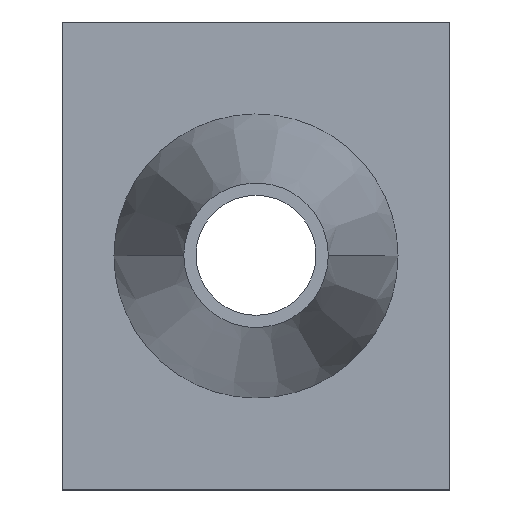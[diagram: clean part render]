
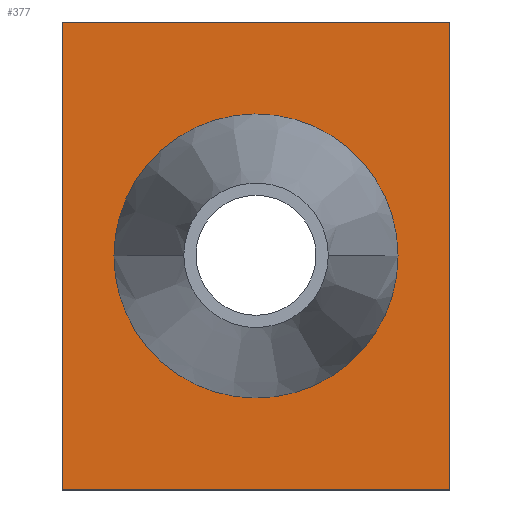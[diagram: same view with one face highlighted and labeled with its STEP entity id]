
A CAD part, top view. The second image highlights one B-rep face of the part: STEP entity #377.
In plain terms, the highlighted planar face has unit normal (0, 0, 1).
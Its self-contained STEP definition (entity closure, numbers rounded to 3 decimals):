
#167=CARTESIAN_POINT('Vertex',(0.,117.,3.)) ;
#174=CARTESIAN_POINT('Vertex',(0.,0.,3.)) ;
#177=CARTESIAN_POINT('Line Origine',(0.,58.5,3.)) ;
#198=CARTESIAN_POINT('Vertex',(97.,117.,3.)) ;
#201=CARTESIAN_POINT('Line Origine',(48.5,117.,3.)) ;
#222=CARTESIAN_POINT('Vertex',(97.,0.,3.)) ;
#225=CARTESIAN_POINT('Line Origine',(97.,58.5,3.)) ;
#242=CARTESIAN_POINT('Line Origine',(48.5,0.,3.)) ;
#324=CARTESIAN_POINT('Axis2P3D Location',(0.,0.,3.)) ;
#336=CARTESIAN_POINT('Control Point',(84.003,58.5,3.)) ;
#337=CARTESIAN_POINT('Control Point',(84.003,64.354,3.)) ;
#338=CARTESIAN_POINT('Control Point',(82.796,70.207,3.)) ;
#339=CARTESIAN_POINT('Control Point',(80.382,75.729,3.)) ;
#340=CARTESIAN_POINT('Control Point',(73.425,85.45,3.)) ;
#341=CARTESIAN_POINT('Control Point',(63.191,91.628,3.)) ;
#342=CARTESIAN_POINT('Control Point',(57.496,93.605,3.)) ;
#343=CARTESIAN_POINT('Control Point',(45.635,95.097,3.)) ;
#344=CARTESIAN_POINT('Control Point',(34.15,91.777,3.)) ;
#345=CARTESIAN_POINT('Control Point',(28.833,88.938,3.)) ;
#346=CARTESIAN_POINT('Control Point',(20.552,81.972,3.)) ;
#347=CARTESIAN_POINT('Control Point',(15.375,72.556,3.)) ;
#348=CARTESIAN_POINT('Control Point',(13.79,67.988,3.)) ;
#349=CARTESIAN_POINT('Control Point',(12.997,63.244,3.)) ;
#350=CARTESIAN_POINT('Control Point',(12.997,58.5,3.)) ;
#351=CARTESIAN_POINT('Vertex',(84.003,58.5,3.)) ;
#353=CARTESIAN_POINT('Vertex',(12.997,58.5,3.)) ;
#357=CARTESIAN_POINT('Control Point',(84.003,58.5,3.)) ;
#358=CARTESIAN_POINT('Control Point',(84.003,52.646,3.)) ;
#359=CARTESIAN_POINT('Control Point',(82.796,46.793,3.)) ;
#360=CARTESIAN_POINT('Control Point',(80.382,41.271,3.)) ;
#361=CARTESIAN_POINT('Control Point',(73.425,31.55,3.)) ;
#362=CARTESIAN_POINT('Control Point',(63.191,25.372,3.)) ;
#363=CARTESIAN_POINT('Control Point',(57.496,23.395,3.)) ;
#364=CARTESIAN_POINT('Control Point',(45.635,21.903,3.)) ;
#365=CARTESIAN_POINT('Control Point',(34.15,25.223,3.)) ;
#366=CARTESIAN_POINT('Control Point',(28.833,28.062,3.)) ;
#367=CARTESIAN_POINT('Control Point',(20.552,35.028,3.)) ;
#368=CARTESIAN_POINT('Control Point',(15.375,44.444,3.)) ;
#369=CARTESIAN_POINT('Control Point',(13.79,49.012,3.)) ;
#370=CARTESIAN_POINT('Control Point',(12.997,53.756,3.)) ;
#371=CARTESIAN_POINT('Control Point',(12.997,58.5,3.)) ;
#178=DIRECTION('Vector Direction',(0.,1.,0.)) ;
#202=DIRECTION('Vector Direction',(-1.,0.,0.)) ;
#226=DIRECTION('Vector Direction',(0.,1.,0.)) ;
#243=DIRECTION('Vector Direction',(1.,0.,0.)) ;
#325=DIRECTION('Axis2P3D Direction',(0.,0.,1.)) ;
#326=DIRECTION('Axis2P3D XDirection',(1.,0.,0.)) ;
#327=AXIS2_PLACEMENT_3D('Plane Axis2P3D',#324,#325,#326) ;
#330=ORIENTED_EDGE('',*,*,#181,.F.) ;
#331=ORIENTED_EDGE('',*,*,#246,.T.) ;
#332=ORIENTED_EDGE('',*,*,#229,.T.) ;
#333=ORIENTED_EDGE('',*,*,#205,.T.) ;
#374=ORIENTED_EDGE('',*,*,#355,.F.) ;
#375=ORIENTED_EDGE('',*,*,#372,.T.) ;
#376=FACE_BOUND('',#373,.T.) ;
#179=VECTOR('Line Direction',#178,1.) ;
#203=VECTOR('Line Direction',#202,1.) ;
#227=VECTOR('Line Direction',#226,1.) ;
#244=VECTOR('Line Direction',#243,1.) ;
#377=ADVANCED_FACE('PartBody',(#334,#376),#328,.T.) ;
#335=B_SPLINE_CURVE_WITH_KNOTS('',5,(#336,#337,#338,#339,#340,#341,#342,#343,#344,#345,#346,#347,#348,#349,#350),.UNSPECIFIED.,.F.,.U.,(6,3,3,3,6),(0.,31.773,63.55,95.327,121.078),.UNSPECIFIED.) ;
#356=B_SPLINE_CURVE_WITH_KNOTS('',5,(#357,#358,#359,#360,#361,#362,#363,#364,#365,#366,#367,#368,#369,#370,#371),.UNSPECIFIED.,.F.,.U.,(6,3,3,3,6),(0.,31.773,63.55,95.327,121.078),.UNSPECIFIED.) ;
#181=EDGE_CURVE('',#175,#168,#180,.T.) ;
#205=EDGE_CURVE('',#199,#168,#204,.T.) ;
#229=EDGE_CURVE('',#223,#199,#228,.T.) ;
#246=EDGE_CURVE('',#175,#223,#245,.T.) ;
#355=EDGE_CURVE('',#352,#354,#335,.T.) ;
#372=EDGE_CURVE('',#352,#354,#356,.T.) ;
#329=EDGE_LOOP('',(#330,#331,#332,#333)) ;
#373=EDGE_LOOP('',(#374,#375)) ;
#334=FACE_OUTER_BOUND('',#329,.T.) ;
#180=LINE('Line',#177,#179) ;
#204=LINE('Line',#201,#203) ;
#228=LINE('Line',#225,#227) ;
#245=LINE('Line',#242,#244) ;
#328=PLANE('',#327) ;
#168=VERTEX_POINT('',#167) ;
#175=VERTEX_POINT('',#174) ;
#199=VERTEX_POINT('',#198) ;
#223=VERTEX_POINT('',#222) ;
#352=VERTEX_POINT('',#351) ;
#354=VERTEX_POINT('',#353) ;
